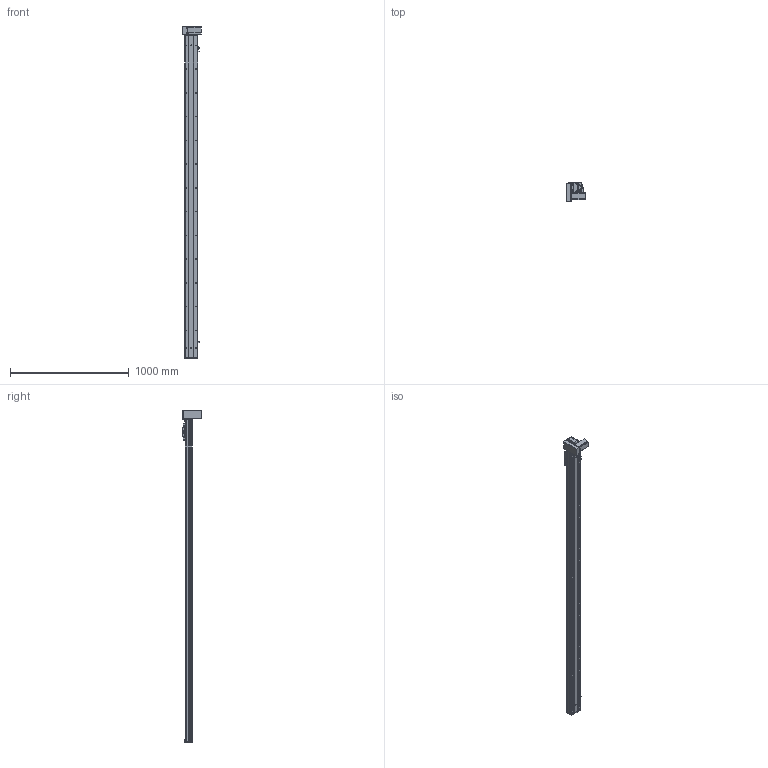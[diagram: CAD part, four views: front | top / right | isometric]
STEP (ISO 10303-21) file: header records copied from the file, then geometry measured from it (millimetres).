
FILE_DESCRIPTION (( 'STEP AP203' ), '1' );
FILE_NAME ('Y10CB-D90-S2450-BM-P400W.STEP', '2020-02-17T02:09:28', ( '微软用户' ), ( '微软中国' ), 'SwSTEP 2.0', 'SolidWorks 2017', '' );
FILE_SCHEMA (( 'CONFIG_CONTROL_DESIGN' ));
Length unit declared in the file: millimetre
Products named in the file (18): 10CB-詩湍-; Y10CB-D90-S2450-BM-P400W; Y10CB- 掛极耜裔啣-毀---; 0CB-雄赽釱---; Y10C---詩湍揤啣; 0Cb-俋欶---; 10CB9-掛极; Y10B-々湍喘謫眊楊擘啣--; 10CB-耜裔; 0B-萇儂楊擘啣; Y135C-陔俋离換覜結え-; san松下电机400不带刹车----; Y100-135俋离換覜ん--; 0B-源倛裔啣; 00B-俋欶BM--; Y10B--々湍喘謫眊--666; 0B-埴倛裔啣; Y10B-耜蚾蟀諉啣----
Assembly tree (21 placements, depth 2):
  Y10CB-D90-S2450-BM-P400W
    0CB-雄赽釱---
    0Cb-俋欶---
    Y10B-々湍喘謫眊楊擘啣--
    0B-萇儂楊擘啣
    san松下电机400不带刹车----
    0B-源倛裔啣
    0B-埴倛裔啣
    10CB-詩湍-
    Y10CB- 掛极耜裔啣-毀---  x2
    Y10C---詩湍揤啣  x2
    10CB9-掛极
    10CB-耜裔
    Y135C-陔俋离換覜結え-
    Y100-135俋离換覜ん--  x3
    Y10B--々湍喘謫眊--666
    00B-俋欶BM--
    Y10B-耜蚾蟀諉啣----
Bounding box: 157 x 156 x 2796 mm (x, y, z)
Volume: 5666184.6 mm3; surface area: 2688054.3 mm2
Topology: 21 solids, 21 shells, 1074 faces, 2923 edges, 1898 vertices
Faces by surface type: cylinder 559, plane 491, cone 24
Entity records: 34412 total; most frequent: CARTESIAN_POINT 6505, DIRECTION 5474, ORIENTED_EDGE 5316, EDGE_CURVE 2658, AXIS2_PLACEMENT_3D 1957, VERTEX_POINT 1724, VECTOR 1560, LINE 1560
